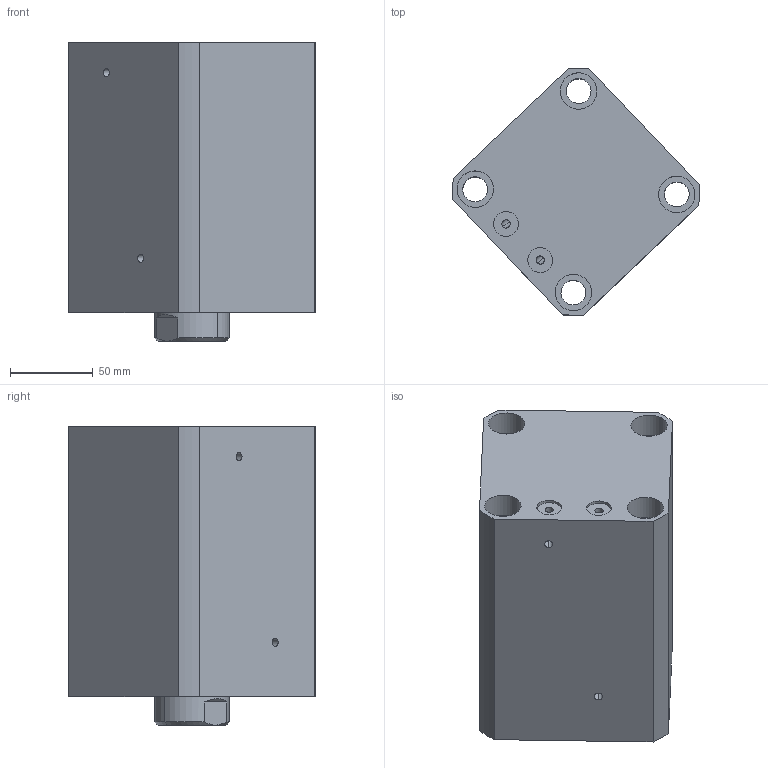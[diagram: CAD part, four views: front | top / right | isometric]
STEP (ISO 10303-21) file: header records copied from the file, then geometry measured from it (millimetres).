
FILE_DESCRIPTION (( 'STEP AP214' ), '1' );
FILE_NAME ('chtb-sdmb80x85n_asm.STEP', '2018-05-25T07:48:36', ( 'Windows' ), ( 'Microsoft' ), 'SwSTEP 2.0', 'SolidWorks 2015', '' );
FILE_SCHEMA (( 'AUTOMOTIVE_DESIGN' ));
Length unit declared in the file: millimetre
Products named in the file (4): CHTB-SDMB80X85NBT; CHTB-SD80X85NHSG; CHTB-SD80QG; chtb-sdmb80x85n_asm
Assembly tree (3 placements, depth 2):
  chtb-sdmb80x85n_asm
    CHTB-SD80QG
    CHTB-SD80X85NHSG
    CHTB-SDMB80X85NBT
Bounding box: 149 x 149 x 180 mm (x, y, z)
Volume: 1647087.5 mm3; surface area: 237508.1 mm2
Topology: 3 solids, 3 shells, 190 faces, 516 edges, 345 vertices
Faces by surface type: cylinder 107, plane 35, torus 18, cone 16, bspline 14
Entity records: 15174 total; most frequent: CARTESIAN_POINT 10467, ORIENTED_EDGE 1020, DIRECTION 879, EDGE_CURVE 510, AXIS2_PLACEMENT_3D 368, VERTEX_POINT 345, EDGE_LOOP 227, FACE_OUTER_BOUND 190
